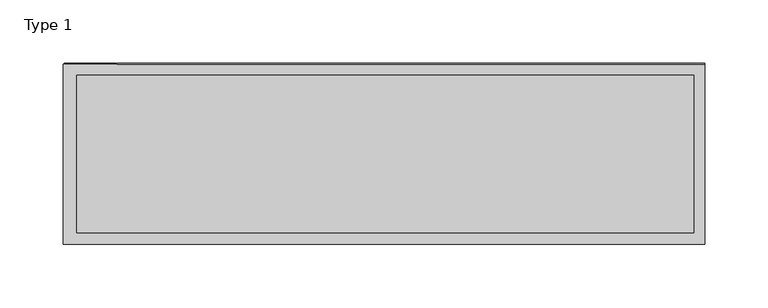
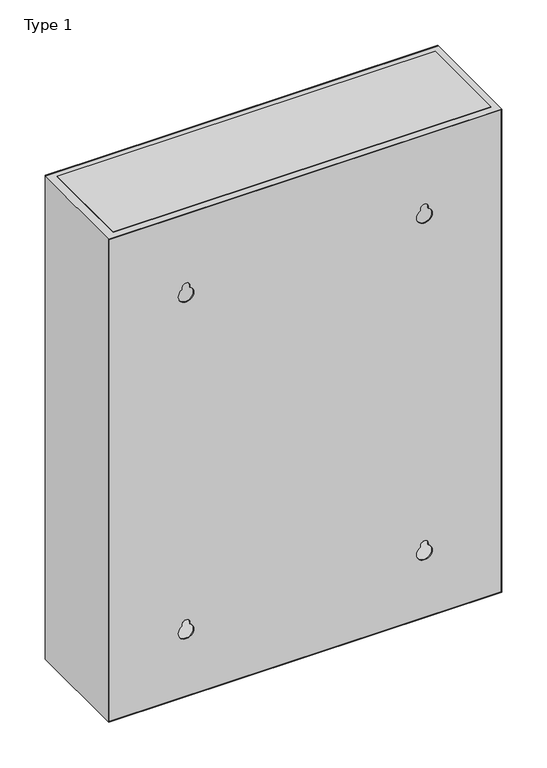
"""IFC4 building model written with IfcOpenShell, lengths in millimetres: proxy geometry, PDB-200 - 208V_OR_120V_Distribution_Panel_Wallmount_BIM_Model : Type 1."""

from ifc_helpers import new_model, si_unit, point, frame, frame_2d, origin, place, context, project, spatial, polyline, circle_curve, trimmed, segment, composite_curve, outline, extrude, source, transform, mapped, element, save


def type_1_709c30e2(model_context):
    return source(origin(), model_context, "Body", "SweptSolid", [
        extrude(outline(polyline([(1661.8105, -253.0524604), (1003.7201708, -253.0524604), (1003.7201708, 252.9513543), (1661.8105, 252.9513543), (1661.8105, -253.0524604)]), holes=[composite_curve([segment(trimmed(circle_curve(frame_2d((1562.5846885, 154.0)), 5.0), [point((1562.5846885, 149.0))], [point((1562.5846885, 159.0))], True, "CARTESIAN"), True, "CONTINUOUS"), segment(polyline([(1562.5846885, 159.0), (1560.4927236, 159.0)]), True, "CONTINUOUS"), segment(trimmed(circle_curve(frame_2d((1551.8324696, 154.0)), 10.0), [point((1560.4927236, 159.0))], [point((1560.4927236, 149.0))], True, "CARTESIAN"), True, "CONTINUOUS"), segment(polyline([(1560.4927236, 149.0), (1562.5846885, 149.0)]), True, "CONTINUOUS")], self_intersect=False), composite_curve([segment(trimmed(circle_curve(frame_2d((1562.5846885, -154.0)), 5.0), [point((1562.5846885, -159.0))], [point((1562.5846885, -149.0))], True, "CARTESIAN"), True, "CONTINUOUS"), segment(polyline([(1562.5846885, -149.0), (1560.4927236, -149.0)]), True, "CONTINUOUS"), segment(trimmed(circle_curve(frame_2d((1551.8324696, -154.0)), 10.0), [point((1560.4927236, -149.0))], [point((1560.4927236, -159.0))], True, "CARTESIAN"), True, "CONTINUOUS"), segment(polyline([(1560.4927236, -159.0), (1562.5846885, -159.0)]), True, "CONTINUOUS")], self_intersect=False), composite_curve([segment(trimmed(circle_curve(frame_2d((1102.5846885, 154.0)), 5.0), [point((1102.5846885, 149.0))], [point((1102.5846885, 159.0))], True, "CARTESIAN"), True, "CONTINUOUS"), segment(polyline([(1102.5846885, 159.0), (1100.4927236, 159.0)]), True, "CONTINUOUS"), segment(trimmed(circle_curve(frame_2d((1091.8324696, 154.0)), 10.0), [point((1100.4927236, 159.0))], [point((1100.4927236, 149.0))], True, "CARTESIAN"), True, "CONTINUOUS"), segment(polyline([(1100.4927236, 149.0), (1102.5846885, 149.0)]), True, "CONTINUOUS")], self_intersect=False), composite_curve([segment(trimmed(circle_curve(frame_2d((1102.5846885, -154.0)), 5.0), [point((1102.5846885, -159.0))], [point((1102.5846885, -149.0))], True, "CARTESIAN"), True, "CONTINUOUS"), segment(polyline([(1102.5846885, -149.0), (1100.4927236, -149.0)]), True, "CONTINUOUS"), segment(trimmed(circle_curve(frame_2d((1091.8324696, -154.0)), 10.0), [point((1100.4927236, -149.0))], [point((1100.4927236, -159.0))], True, "CARTESIAN"), True, "CONTINUOUS"), segment(polyline([(1100.4927236, -159.0), (1102.5846885, -159.0)]), True, "CONTINUOUS")], self_intersect=False)]), frame((0.0, 241.5967765, 0.0), z_axis=(0.0, 1.0, 0.0), x_axis=(0.0, 0.0, 1.0)), (0.0, 0.0, 1.0), 0.9625754),
        extrude(outline(polyline([(245.0524604, 375.3817659), (245.0524604, 250.7819777), (-243.0524604, 250.7819777), (-243.0524604, 375.3817659), (245.0524604, 375.3817659)])), frame((0.0, 0.0, 1662.5846885), z_axis=(0.0, 0.0, 1.0), x_axis=(1.0, 0.0, 0.0)), (0.0, 0.0, 1.0), 1.0190412),
        extrude(outline(polyline([(245.0524604, 375.3817659), (245.0524604, 250.7819777), (-243.0524604, 250.7819777), (-243.0524604, 375.3817659), (245.0524604, 375.3817659)])), frame((0.0, 0.0, 1001.2301619), z_axis=(0.0, 0.0, 1.0), x_axis=(1.0, 0.0, 0.0)), (0.0, 0.0, 1.0), 1.3545267),
        extrude(outline(polyline([(1662.5846885, -211.0613968), (1002.5846885, -211.0613968), (1002.5846885, 254.0), (1662.5846885, 254.0), (1662.5846885, -211.0613968)]), holes=[polyline([(1580.351105, -164.6519981), (1580.351105, 175.3480019), (1090.6943454, 175.3480019), (1090.6943454, -164.6519981), (1580.351105, -164.6519981)])]), frame((0.0, 384.0, 0.0), z_axis=(0.0, 1.0, 0.0), x_axis=(0.0, 0.0, 1.0)), (0.0, 0.0, 1.0), 0.9317574),
        extrude(outline(polyline([(174.8480019, 384.0), (-164.1519981, 384.0), (-164.1519981, 384.9317574), (174.8480019, 384.9317574), (174.8480019, 384.0)])), frame((0.0, 0.0, 1091.1943454), z_axis=(0.0, 0.0, 1.0), x_axis=(1.0, 0.0, 0.0)), (0.0, 0.0, 1.0), 488.6567596),
        extrude(outline(polyline([(1662.5846885, -254.0), (1002.5846885, -254.0), (1002.5846885, 254.0), (1662.5846885, 254.0), (1662.5846885, -254.0)]), holes=[polyline([(1661.8105, -253.0524604), (1661.8105, 252.9513543), (1003.7201708, 252.9513543), (1003.7201708, -253.0524604), (1661.8105, -253.0524604)])]), frame((0.0, 241.5967765, 0.0), z_axis=(0.0, 1.0, 0.0), x_axis=(0.0, 0.0, 1.0)), (0.0, 0.0, 1.0), 142.4032235),
        extrude(outline(polyline([(-212.0524604, 384.0), (-253.0524604, 384.0), (-253.0524604, 384.9317574), (-212.0524604, 384.9317574), (-212.0524604, 384.0)])), frame((0.0, 0.0, 1002.5846885), z_axis=(0.0, 0.0, 1.0), x_axis=(1.0, 0.0, 0.0)), (0.0, 0.0, 1.0), 660.0),
        extrude(outline(composite_curve([segment(trimmed(circle_curve(frame_2d((1355.1281656, 96.948195)), 10.0), [point((1355.1281656, 86.948195))], [point((1355.1281656, 106.948195))], False, "CARTESIAN"), True, "CONTINUOUS"), segment(trimmed(circle_curve(frame_2d((1355.1281656, 96.948195)), 10.0), [point((1355.1281656, 106.948195))], [point((1355.1281656, 86.948195))], False, "CARTESIAN"), True, "CONTINUOUS")], self_intersect=False), holes=[polyline([(1362.2099321, 95.0187584), (1362.2099321, 98.8038249), (1347.2099321, 98.8038249), (1347.2099321, 95.0187584), (1362.2099321, 95.0187584)])]), frame((0.0, 315.5840252, 0.0), z_axis=(0.0, 1.0, 0.0), x_axis=(0.0, 0.0, 1.0)), (0.0, 0.0, 1.0), 3.0401587),
        extrude(outline(polyline([(107.9231784, 384.9317574), (107.9231784, 315.5840252), (85.9231784, 315.5840252), (85.9231784, 384.9317574), (107.9231784, 384.9317574)])), frame((0.0, 0.0, 1290.0770102), z_axis=(0.0, 0.0, 1.0), x_axis=(1.0, 0.0, 0.0)), (0.0, 0.0, 1.0), 84.5076783),
    ])


if __name__ == "__main__":
    model = new_model("IFC4")
    model_context = context("Model", 3, world=origin())
    ifc_project = project(units=[si_unit("LENGTHUNIT", "METRE", prefix="MILLI")], contexts=[model_context])
    site = spatial("IfcSite", under=ifc_project)
    building = spatial("IfcBuilding", under=site)
    placement = place(None, origin())
    type_1_shape = type_1_709c30e2(model_context)
    element("IfcBuildingElementProxy", 1, Name="PDB-200 - 208V_OR_120V_Distribution_Panel_Wallmount_BIM_Model : Type 1", ObjectType="PDB-200 - 208V_OR_120V_Distribution_Panel_Wallmount_BIM_Model : Type 1", at=placement, inside=building, context=model_context, shape_type="MappedRepresentation", body=[
        mapped(type_1_shape, transform((0.0, 0.0, 0.0), x_axis=(1.0, 0.0, 0.0), y_axis=(0.0, 1.0, 0.0), z_axis=(0.0, 0.0, 1.0))),
    ])
    save(model, "model.ifc")
